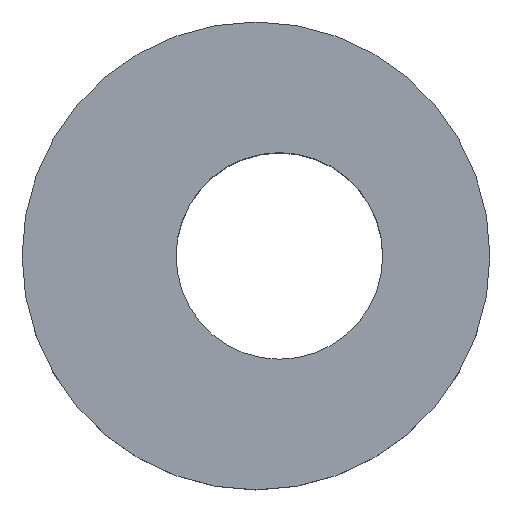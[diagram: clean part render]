
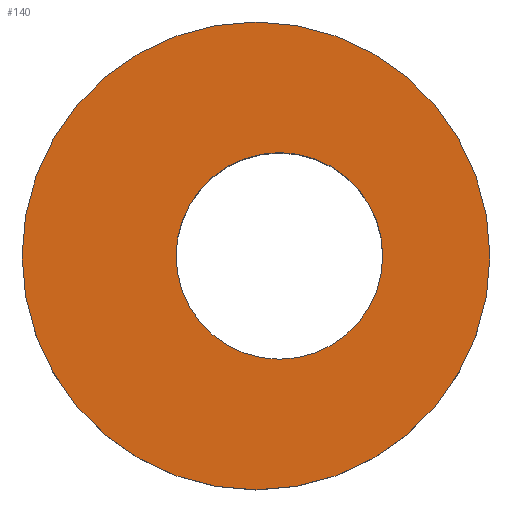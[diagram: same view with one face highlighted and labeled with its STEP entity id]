
A CAD part, top view. The second image highlights one B-rep face of the part: STEP entity #140.
In plain terms, the highlighted planar face has unit normal (0, 0, 1).
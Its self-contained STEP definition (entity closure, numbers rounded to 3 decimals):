
#24 = VERTEX_POINT('',#25);
#25 = CARTESIAN_POINT('',(12.,6.,7.8));
#32 = CYLINDRICAL_SURFACE('',#33,6.);
#33 = AXIS2_PLACEMENT_3D('',#34,#35,#36);
#34 = CARTESIAN_POINT('',(6.,6.,6.));
#35 = DIRECTION('',(-0.,-0.,-1.));
#36 = DIRECTION('',(1.,0.,0.));
#51 = EDGE_CURVE('',#24,#24,#52,.T.);
#52 = SURFACE_CURVE('',#53,(#58,#65),.PCURVE_S1.);
#53 = CIRCLE('',#54,6.);
#54 = AXIS2_PLACEMENT_3D('',#55,#56,#57);
#55 = CARTESIAN_POINT('',(6.,6.,7.8));
#56 = DIRECTION('',(0.,0.,1.));
#57 = DIRECTION('',(1.,0.,0.));
#58 = PCURVE('',#32,#59);
#59 = DEFINITIONAL_REPRESENTATION('',(#60),#64);
#60 = LINE('',#61,#62);
#61 = CARTESIAN_POINT('',(-0.,-1.8));
#62 = VECTOR('',#63,1.);
#63 = DIRECTION('',(-1.,0.));
#64 = ( GEOMETRIC_REPRESENTATION_CONTEXT(2) 
PARAMETRIC_REPRESENTATION_CONTEXT() REPRESENTATION_CONTEXT('2D SPACE',''
  ) );
#65 = PCURVE('',#66,#71);
#66 = PLANE('',#67);
#67 = AXIS2_PLACEMENT_3D('',#68,#69,#70);
#68 = CARTESIAN_POINT('',(6.,6.,7.8));
#69 = DIRECTION('',(0.,0.,1.));
#70 = DIRECTION('',(1.,0.,-0.));
#71 = DEFINITIONAL_REPRESENTATION('',(#72),#76);
#72 = CIRCLE('',#73,6.);
#73 = AXIS2_PLACEMENT_2D('',#74,#75);
#74 = CARTESIAN_POINT('',(0.,0.));
#75 = DIRECTION('',(1.,0.));
#76 = ( GEOMETRIC_REPRESENTATION_CONTEXT(2) 
PARAMETRIC_REPRESENTATION_CONTEXT() REPRESENTATION_CONTEXT('2D SPACE',''
  ) );
#140 = ADVANCED_FACE('',(#141,#144),#66,.T.);
#141 = FACE_BOUND('',#142,.T.);
#142 = EDGE_LOOP('',(#143));
#143 = ORIENTED_EDGE('',*,*,#51,.T.);
#144 = FACE_BOUND('',#145,.T.);
#145 = EDGE_LOOP('',(#146));
#146 = ORIENTED_EDGE('',*,*,#147,.T.);
#147 = EDGE_CURVE('',#148,#148,#150,.T.);
#148 = VERTEX_POINT('',#149);
#149 = CARTESIAN_POINT('',(9.25,6.,7.8));
#150 = SURFACE_CURVE('',#151,(#156,#167),.PCURVE_S1.);
#151 = CIRCLE('',#152,2.65);
#152 = AXIS2_PLACEMENT_3D('',#153,#154,#155);
#153 = CARTESIAN_POINT('',(6.6,6.,7.8));
#154 = DIRECTION('',(0.,0.,-1.));
#155 = DIRECTION('',(1.,0.,0.));
#156 = PCURVE('',#66,#157);
#157 = DEFINITIONAL_REPRESENTATION('',(#158),#166);
#158 = ( BOUNDED_CURVE() B_SPLINE_CURVE(2,(#159,#160,#161,#162,#163,#164
,#165),.UNSPECIFIED.,.T.,.F.) B_SPLINE_CURVE_WITH_KNOTS((1,2,2,2,2,1),(
    -2.094,0.,2.094,4.189,6.283,
8.378),.UNSPECIFIED.) CURVE() GEOMETRIC_REPRESENTATION_ITEM() 
RATIONAL_B_SPLINE_CURVE((1.,0.5,1.,0.5,1.,0.5,1.)) REPRESENTATION_ITEM(
  '') );
#159 = CARTESIAN_POINT('',(3.25,0.));
#160 = CARTESIAN_POINT('',(3.25,-4.59));
#161 = CARTESIAN_POINT('',(-0.725,-2.295));
#162 = CARTESIAN_POINT('',(-4.7,0.));
#163 = CARTESIAN_POINT('',(-0.725,2.295));
#164 = CARTESIAN_POINT('',(3.25,4.59));
#165 = CARTESIAN_POINT('',(3.25,0.));
#166 = ( GEOMETRIC_REPRESENTATION_CONTEXT(2) 
PARAMETRIC_REPRESENTATION_CONTEXT() REPRESENTATION_CONTEXT('2D SPACE',''
  ) );
#167 = PCURVE('',#168,#173);
#168 = CYLINDRICAL_SURFACE('',#169,2.65);
#169 = AXIS2_PLACEMENT_3D('',#170,#171,#172);
#170 = CARTESIAN_POINT('',(6.6,6.,-1.));
#171 = DIRECTION('',(-0.,-0.,-1.));
#172 = DIRECTION('',(1.,0.,0.));
#173 = DEFINITIONAL_REPRESENTATION('',(#174),#178);
#174 = LINE('',#175,#176);
#175 = CARTESIAN_POINT('',(-6.283,-8.8));
#176 = VECTOR('',#177,1.);
#177 = DIRECTION('',(1.,-0.));
#178 = ( GEOMETRIC_REPRESENTATION_CONTEXT(2) 
PARAMETRIC_REPRESENTATION_CONTEXT() REPRESENTATION_CONTEXT('2D SPACE',''
  ) );
